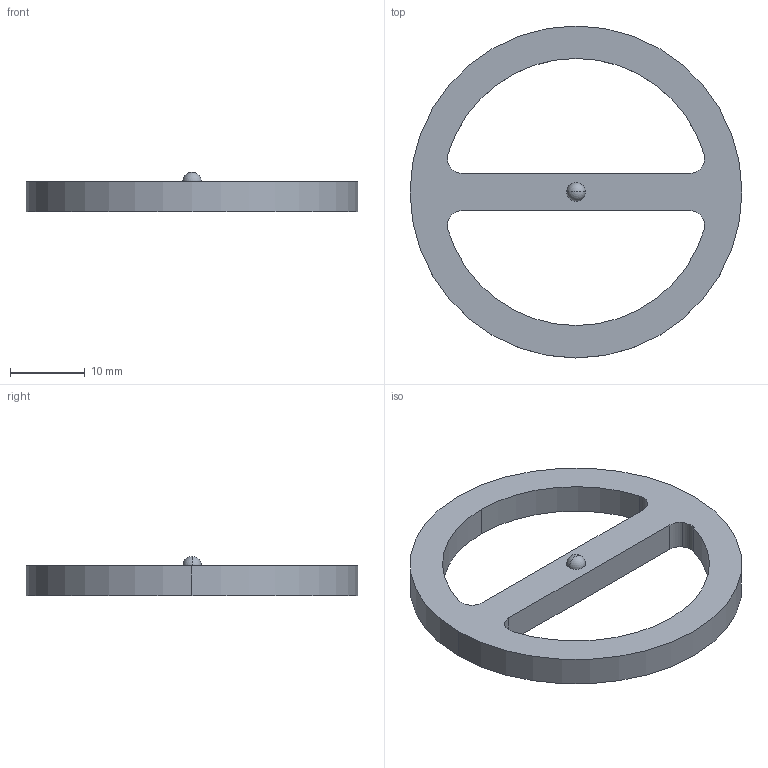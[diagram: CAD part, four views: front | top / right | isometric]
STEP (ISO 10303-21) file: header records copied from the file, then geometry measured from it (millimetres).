
FILE_DESCRIPTION(('STEP AP214'),'1');
FILE_NAME('tmp0.step','2025-04-26T20:22:12',(' '),(' '),'Spatial InterOp 3D',' ',' ');
FILE_SCHEMA(('AUTOMOTIVE_DESIGN { 1 0 10303 214 1 1 1 1 }'));
Length unit declared in the file: millimetre
Products named in the file (1): 1
Bounding box: 44.5 x 44.5 x 5.25 mm (x, y, z)
Volume: 2935.9 mm3; surface area: 2701.2 mm2
Topology: 1 solids, 1 shells, 20 faces, 55 edges, 36 vertices
Faces by surface type: cylinder 14, plane 4, sphere 2
Entity records: 679 total; most frequent: DIRECTION 128, CARTESIAN_POINT 110, ORIENTED_EDGE 106, AXIS2_PLACEMENT_3D 54, EDGE_CURVE 53, VERTEX_POINT 36, CIRCLE 33, EDGE_LOOP 25
